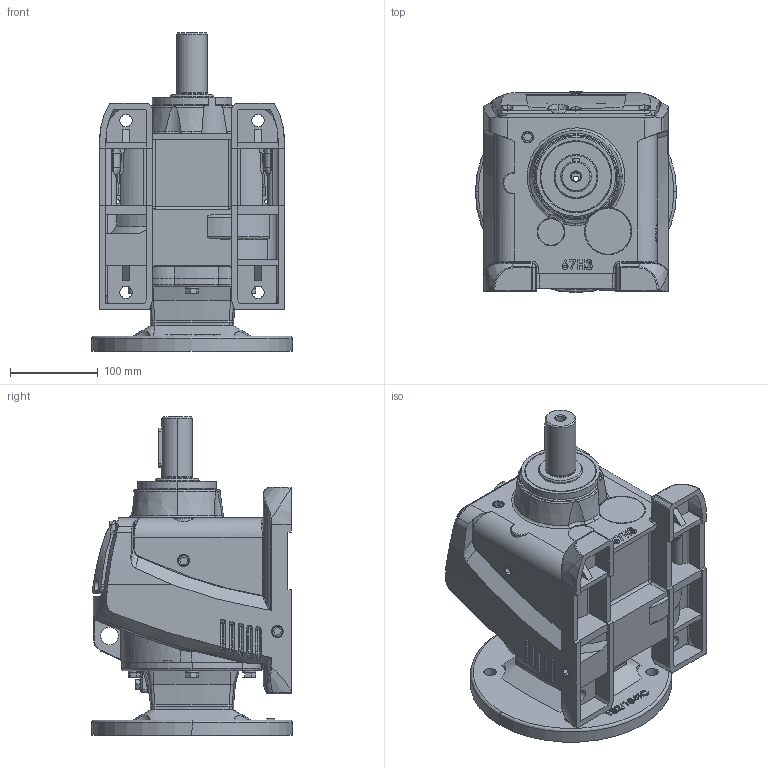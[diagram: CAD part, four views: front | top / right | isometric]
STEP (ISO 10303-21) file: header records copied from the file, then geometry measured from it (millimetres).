
FILE_DESCRIPTION (( 'STEP AP203' ), '1' );
FILE_NAME ('WINL67-182-4TC.STEP', '2013-09-26T09:18:17', ( 'User' ), ( 'Chenta' ), 'SwSTEP 2.0', 'SolidWorks 2011', '' );
FILE_SCHEMA (( 'CONFIG_CONTROL_DESIGN' ));
Length unit declared in the file: millimetre
Products named in the file (1): WINL67-182-4TC
Bounding box: 228.6 x 228.6 x 362 mm (x, y, z)
Surface area: 478488.3 mm2 (no closed solid volume)
Topology: 0 solids, 39 shells, 1181 faces, 3431 edges, 2246 vertices
Faces by surface type: plane 402, bspline 329, cylinder 264, cone 105, torus 51, sphere 30
Entity records: 61282 total; most frequent: CARTESIAN_POINT 33273, ORIENTED_EDGE 6135, DIRECTION 4836, EDGE_CURVE 3405, VERTEX_POINT 2246, AXIS2_PLACEMENT_3D 1715, VECTOR 1406, LINE 1406
